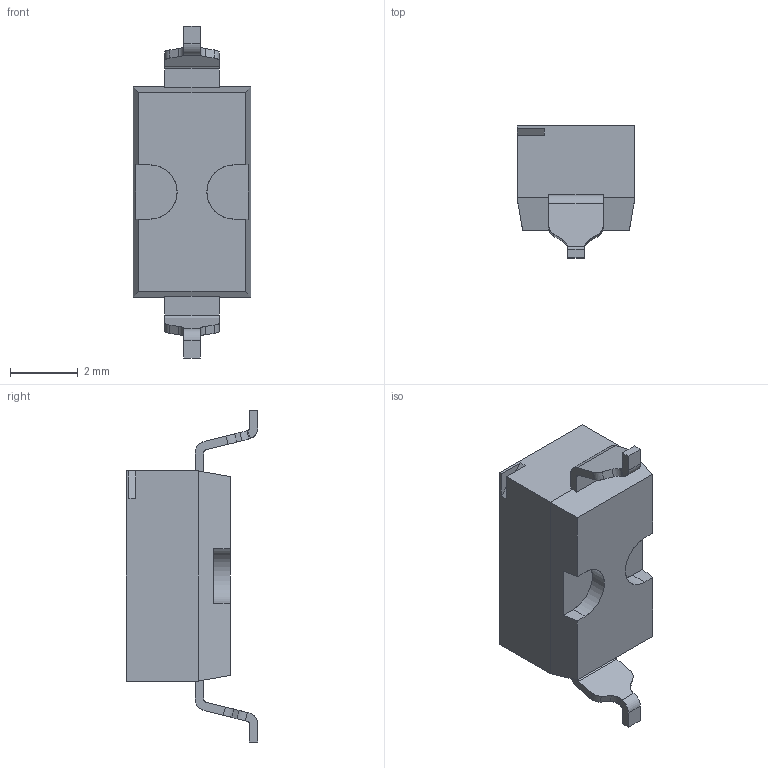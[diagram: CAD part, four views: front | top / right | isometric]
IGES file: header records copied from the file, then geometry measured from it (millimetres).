
Start section: SolidWorks IGES file using analytic representation for surfaces
Bounding box: 3.48 x 3.89 x 9.8 mm (x, y, z)
Surface area: 219.7 mm2 (no closed solid volume)
Topology: 0 solids, 0 shells, 223 faces, 1518 edges, 1516 vertices
Faces by surface type: bspline 161, revolution 62
